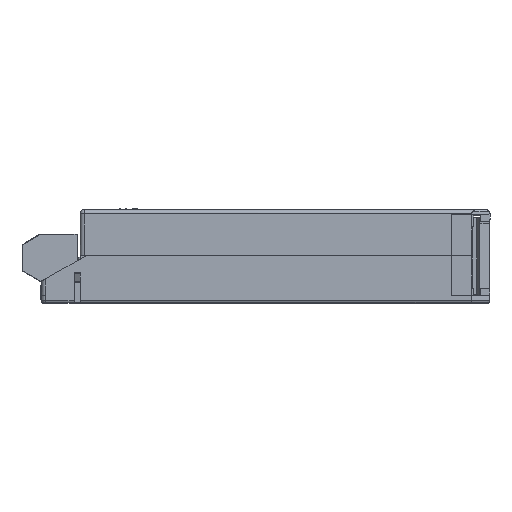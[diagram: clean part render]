
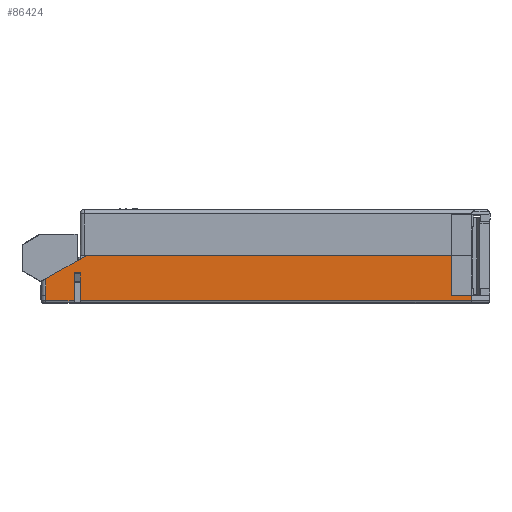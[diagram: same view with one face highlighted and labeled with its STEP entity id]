
A CAD part, top view. The second image highlights one B-rep face of the part: STEP entity #86424.
In plain terms, the highlighted planar face has unit normal (0, 0, 1).
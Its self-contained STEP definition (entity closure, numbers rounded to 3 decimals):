
#3169 = VECTOR ( 'NONE', #113604, 1000. ) ;
#3946 = VECTOR ( 'NONE', #105643, 1000. ) ;
#4291 = VECTOR ( 'NONE', #77274, 1000. ) ;
#7664 = LINE ( 'NONE', #10600, #3946 ) ;
#7720 = EDGE_CURVE ( 'NONE', #115009, #115662, #71480, .T. ) ;
#8350 = CARTESIAN_POINT ( 'NONE',  ( -38.499, 1.8, 37.495 ) ) ;
#9062 = VERTEX_POINT ( 'NONE', #8350 ) ;
#9631 = PLANE ( 'NONE',  #56634 ) ;
#10151 = DIRECTION ( 'NONE',  ( 0., 0., -1. ) ) ;
#10600 = CARTESIAN_POINT ( 'NONE',  ( -31.499, 7.3, 37.495 ) ) ;
#11418 = DIRECTION ( 'NONE',  ( 0., -1., 0. ) ) ;
#14661 = ORIENTED_EDGE ( 'NONE', *, *, #95799, .F. ) ;
#15518 = ORIENTED_EDGE ( 'NONE', *, *, #105773, .F. ) ;
#19092 = LINE ( 'NONE', #52823, #110133 ) ;
#19884 = VECTOR ( 'NONE', #127850, 1000. ) ;
#26335 = ORIENTED_EDGE ( 'NONE', *, *, #136330, .T. ) ;
#28085 = CARTESIAN_POINT ( 'NONE',  ( -28.499, 11.55, 37.495 ) ) ;
#30027 = CARTESIAN_POINT ( 'NONE',  ( -28.499, 11.55, 37.495 ) ) ;
#30506 = EDGE_CURVE ( 'NONE', #54492, #96628, #32498, .T. ) ;
#32498 = LINE ( 'NONE', #28085, #95609 ) ;
#39953 = VECTOR ( 'NONE', #11418, 1000. ) ;
#41051 = EDGE_CURVE ( 'NONE', #137893, #111252, #70924, .T. ) ;
#42392 = CARTESIAN_POINT ( 'NONE',  ( -31.499, 0.5, 37.495 ) ) ;
#42570 = CARTESIAN_POINT ( 'NONE',  ( 65.998, 1.8, 37.495 ) ) ;
#45213 = VECTOR ( 'NONE', #53012, 1000. ) ;
#47513 = EDGE_CURVE ( 'NONE', #105768, #72085, #19092, .T. ) ;
#47582 = CARTESIAN_POINT ( 'NONE',  ( -38.499, 1.8, 37.495 ) ) ;
#48327 = CARTESIAN_POINT ( 'NONE',  ( 65.998, 1.8, 37.495 ) ) ;
#51252 = CARTESIAN_POINT ( 'NONE',  ( 65.998, 1.8, 37.495 ) ) ;
#51406 = EDGE_CURVE ( 'NONE', #9062, #105768, #51545, .T. ) ;
#51457 = LINE ( 'NONE', #47582, #138679 ) ;
#51545 = LINE ( 'NONE', #151744, #19884 ) ;
#52485 = DIRECTION ( 'NONE',  ( 0., -1., 0. ) ) ;
#52823 = CARTESIAN_POINT ( 'NONE',  ( -31.499, 0.5, 37.495 ) ) ;
#52997 = CARTESIAN_POINT ( 'NONE',  ( -31.499, 1.8, 37.495 ) ) ;
#53012 = DIRECTION ( 'NONE',  ( 1., 0., 0. ) ) ;
#54492 = VERTEX_POINT ( 'NONE', #76028 ) ;
#56634 = AXIS2_PLACEMENT_3D ( 'NONE', #81318, #10151, #93225 ) ;
#57827 = EDGE_CURVE ( 'NONE', #54492, #115009, #95330, .T. ) ;
#64838 = EDGE_CURVE ( 'NONE', #119856, #72085, #150856, .T. ) ;
#69862 = DIRECTION ( 'NONE',  ( 0., -1., 0. ) ) ;
#70678 = CARTESIAN_POINT ( 'NONE',  ( 61.001, 11.55, 37.495 ) ) ;
#70924 = LINE ( 'NONE', #129009, #134097 ) ;
#71480 = LINE ( 'NONE', #70678, #39953 ) ;
#72085 = VERTEX_POINT ( 'NONE', #42392 ) ;
#73436 = ORIENTED_EDGE ( 'NONE', *, *, #47513, .T. ) ;
#73476 = CARTESIAN_POINT ( 'NONE',  ( 61.001, 11.55, 37.495 ) ) ;
#73717 = ORIENTED_EDGE ( 'NONE', *, *, #57827, .F. ) ;
#76028 = CARTESIAN_POINT ( 'NONE',  ( -28.499, 11.55, 37.495 ) ) ;
#76160 = FACE_OUTER_BOUND ( 'NONE', #120808, .T. ) ;
#77274 = DIRECTION ( 'NONE',  ( 1., 0., 0. ) ) ;
#78889 = LINE ( 'NONE', #51252, #110476 ) ;
#81318 = CARTESIAN_POINT ( 'NONE',  ( 65.998, 1.8, 37.495 ) ) ;
#86424 = ADVANCED_FACE ( 'NONE', ( #76160 ), #9631, .F. ) ;
#87275 = ORIENTED_EDGE ( 'NONE', *, *, #64838, .F. ) ;
#87341 = CARTESIAN_POINT ( 'NONE',  ( 65.998, 0.5, 37.495 ) ) ;
#87454 = CARTESIAN_POINT ( 'NONE',  ( -29.999, 0.5, 37.495 ) ) ;
#93225 = DIRECTION ( 'NONE',  ( -1., 0., 0. ) ) ;
#94758 = ORIENTED_EDGE ( 'NONE', *, *, #7720, .F. ) ;
#95330 = LINE ( 'NONE', #30027, #4291 ) ;
#95609 = VECTOR ( 'NONE', #111129, 1000. ) ;
#95799 = EDGE_CURVE ( 'NONE', #142918, #143862, #97972, .T. ) ;
#96628 = VERTEX_POINT ( 'NONE', #108132 ) ;
#97911 = CARTESIAN_POINT ( 'NONE',  ( -38.499, 0.5, 37.495 ) ) ;
#97972 = LINE ( 'NONE', #42570, #3169 ) ;
#98828 = CARTESIAN_POINT ( 'NONE',  ( -29.999, 7.3, 37.495 ) ) ;
#100327 = EDGE_CURVE ( 'NONE', #96628, #9062, #51457, .T. ) ;
#105643 = DIRECTION ( 'NONE',  ( -1., 0., 0. ) ) ;
#105768 = VERTEX_POINT ( 'NONE', #97911 ) ;
#105773 = EDGE_CURVE ( 'NONE', #115662, #142918, #78889, .T. ) ;
#108132 = CARTESIAN_POINT ( 'NONE',  ( -38.499, 5.868, 37.495 ) ) ;
#110133 = VECTOR ( 'NONE', #135852, 1000. ) ;
#110476 = VECTOR ( 'NONE', #134268, 1000. ) ;
#111129 = DIRECTION ( 'NONE',  ( -0.869, -0.494, 0. ) ) ;
#111252 = VERTEX_POINT ( 'NONE', #87454 ) ;
#113604 = DIRECTION ( 'NONE',  ( 0., -1., 0. ) ) ;
#115009 = VERTEX_POINT ( 'NONE', #73476 ) ;
#115662 = VERTEX_POINT ( 'NONE', #129372 ) ;
#119856 = VERTEX_POINT ( 'NONE', #143744 ) ;
#120808 = EDGE_LOOP ( 'NONE', ( #143571, #143322, #139383, #73436, #87275, #126485, #129635, #26335, #14661, #15518, #94758, #73717 ) ) ;
#126485 = ORIENTED_EDGE ( 'NONE', *, *, #132239, .F. ) ;
#127850 = DIRECTION ( 'NONE',  ( 0., -1., 0. ) ) ;
#129009 = CARTESIAN_POINT ( 'NONE',  ( -29.999, 1.8, 37.495 ) ) ;
#129372 = CARTESIAN_POINT ( 'NONE',  ( 61.001, 1.8, 37.495 ) ) ;
#129635 = ORIENTED_EDGE ( 'NONE', *, *, #41051, .T. ) ;
#132239 = EDGE_CURVE ( 'NONE', #137893, #119856, #7664, .T. ) ;
#134097 = VECTOR ( 'NONE', #69862, 1000. ) ;
#134268 = DIRECTION ( 'NONE',  ( 1., 0., 0. ) ) ;
#135852 = DIRECTION ( 'NONE',  ( 1., 0., 0. ) ) ;
#136030 = CARTESIAN_POINT ( 'NONE',  ( 65.998, 0.5, 37.495 ) ) ;
#136330 = EDGE_CURVE ( 'NONE', #111252, #143862, #139916, .T. ) ;
#137893 = VERTEX_POINT ( 'NONE', #98828 ) ;
#138679 = VECTOR ( 'NONE', #142500, 1000. ) ;
#139383 = ORIENTED_EDGE ( 'NONE', *, *, #51406, .T. ) ;
#139916 = LINE ( 'NONE', #136030, #45213 ) ;
#142500 = DIRECTION ( 'NONE',  ( 0., -1., 0. ) ) ;
#142918 = VERTEX_POINT ( 'NONE', #48327 ) ;
#143322 = ORIENTED_EDGE ( 'NONE', *, *, #100327, .T. ) ;
#143571 = ORIENTED_EDGE ( 'NONE', *, *, #30506, .T. ) ;
#143744 = CARTESIAN_POINT ( 'NONE',  ( -31.499, 7.3, 37.495 ) ) ;
#143862 = VERTEX_POINT ( 'NONE', #87341 ) ;
#147145 = VECTOR ( 'NONE', #52485, 1000. ) ;
#150856 = LINE ( 'NONE', #52997, #147145 ) ;
#151744 = CARTESIAN_POINT ( 'NONE',  ( -38.499, 1.8, 37.495 ) ) ;
